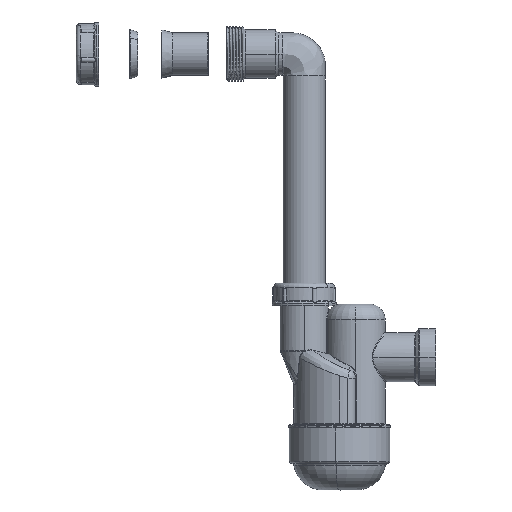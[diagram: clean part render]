
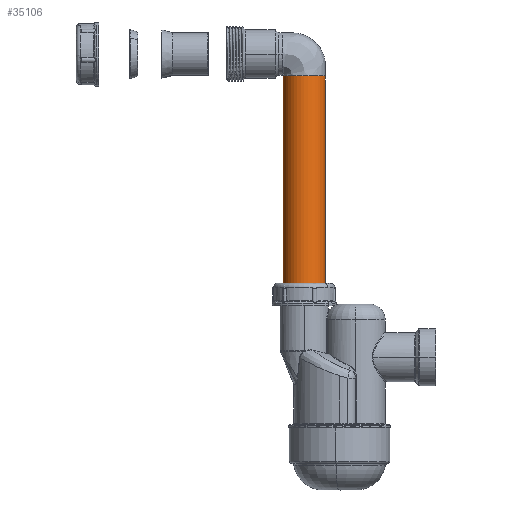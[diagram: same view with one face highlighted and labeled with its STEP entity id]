
A CAD part, top view. The second image highlights one B-rep face of the part: STEP entity #35106.
In plain terms, the highlighted cylindrical face has radius 16 mm (diameter 32 mm), a partial arc.
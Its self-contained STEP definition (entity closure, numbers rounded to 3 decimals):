
#54 = DIRECTION ( 'NONE',  ( 0., 1., 0. ) ) ;
#3820 = VECTOR ( 'NONE', #54, 1000. ) ;
#5286 = DIRECTION ( 'NONE',  ( 0., 1., 0. ) ) ;
#5684 = CARTESIAN_POINT ( 'NONE',  ( 0., -217., -16.5 ) ) ;
#7429 = VERTEX_POINT ( 'NONE', #10578 ) ;
#7724 = CIRCLE ( 'NONE', #30880, 16. ) ;
#7956 = DIRECTION ( 'NONE',  ( 0., 1., 0. ) ) ;
#8915 = ORIENTED_EDGE ( 'NONE', *, *, #25981, .T. ) ;
#10347 = ORIENTED_EDGE ( 'NONE', *, *, #32866, .F. ) ;
#10578 = CARTESIAN_POINT ( 'NONE',  ( 0., -217., -0.5 ) ) ;
#14018 = EDGE_CURVE ( 'NONE', #21510, #22470, #23559, .T. ) ;
#14853 = ORIENTED_EDGE ( 'NONE', *, *, #16582, .F. ) ;
#16582 = EDGE_CURVE ( 'NONE', #31718, #22470, #40909, .T. ) ;
#16645 = CARTESIAN_POINT ( 'NONE',  ( 0., -16.5, -0.5 ) ) ;
#17852 = DIRECTION ( 'NONE',  ( 0., 0., 1. ) ) ;
#18676 = DIRECTION ( 'NONE',  ( 0., 0., 1. ) ) ;
#19956 = DIRECTION ( 'NONE',  ( 0., 0., 1. ) ) ;
#21401 = LINE ( 'NONE', #28208, #38021 ) ;
#21510 = VERTEX_POINT ( 'NONE', #22266 ) ;
#22266 = CARTESIAN_POINT ( 'NONE',  ( 0., -217., -32.5 ) ) ;
#22470 = VERTEX_POINT ( 'NONE', #41484 ) ;
#23559 = LINE ( 'NONE', #40507, #3820 ) ;
#23775 = ORIENTED_EDGE ( 'NONE', *, *, #14018, .T. ) ;
#25308 = CYLINDRICAL_SURFACE ( 'NONE', #29624, 16. ) ;
#25981 = EDGE_CURVE ( 'NONE', #7429, #21510, #7724, .T. ) ;
#28208 = CARTESIAN_POINT ( 'NONE',  ( 0., -19.86, -0.5 ) ) ;
#29624 = AXIS2_PLACEMENT_3D ( 'NONE', #31917, #7956, #17852 ) ;
#30880 = AXIS2_PLACEMENT_3D ( 'NONE', #5684, #35782, #19956 ) ;
#31513 = DIRECTION ( 'NONE',  ( 0., 1., 0. ) ) ;
#31718 = VERTEX_POINT ( 'NONE', #16645 ) ;
#31917 = CARTESIAN_POINT ( 'NONE',  ( 0., -19.86, -16.5 ) ) ;
#32866 = EDGE_CURVE ( 'NONE', #7429, #31718, #21401, .T. ) ;
#34556 = FACE_OUTER_BOUND ( 'NONE', #36821, .T. ) ;
#35106 = ADVANCED_FACE ( 'NONE', ( #34556 ), #25308, .T. ) ;
#35382 = CARTESIAN_POINT ( 'NONE',  ( 0., -16.5, -16.5 ) ) ;
#35782 = DIRECTION ( 'NONE',  ( 0., 1., 0. ) ) ;
#36821 = EDGE_LOOP ( 'NONE', ( #8915, #23775, #14853, #10347 ) ) ;
#37395 = AXIS2_PLACEMENT_3D ( 'NONE', #35382, #5286, #18676 ) ;
#38021 = VECTOR ( 'NONE', #31513, 1000. ) ;
#40507 = CARTESIAN_POINT ( 'NONE',  ( 0., -19.86, -32.5 ) ) ;
#40909 = CIRCLE ( 'NONE', #37395, 16. ) ;
#41484 = CARTESIAN_POINT ( 'NONE',  ( 0., -16.5, -32.5 ) ) ;
